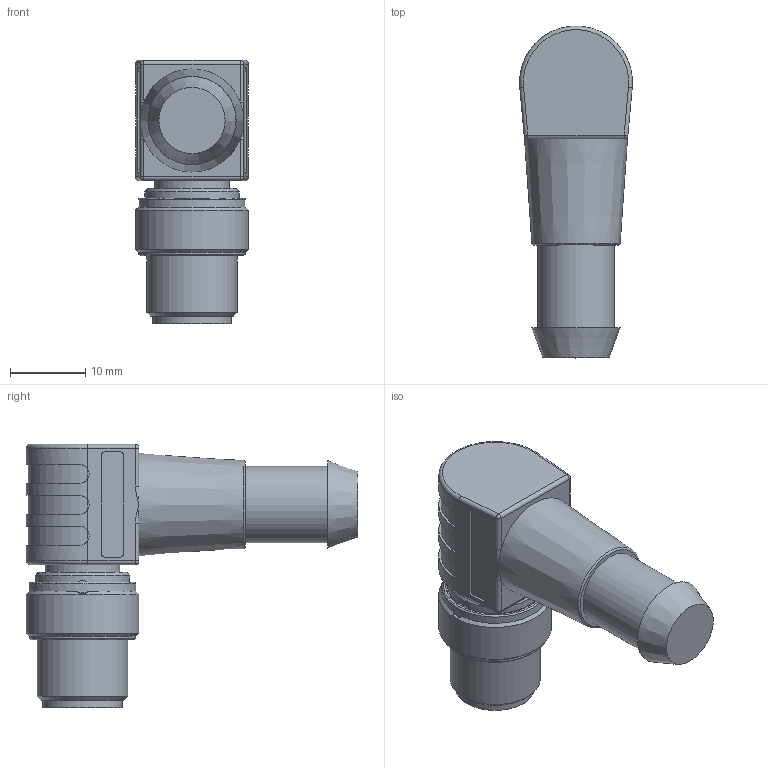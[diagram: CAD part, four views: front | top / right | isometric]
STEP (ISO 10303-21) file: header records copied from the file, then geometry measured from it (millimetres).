
FILE_DESCRIPTION((''),'2;1');
FILE_NAME('C:\TurckZip\MFGD0008.stp','2011-06-16T07:59:34',('IKOROL'),(''),'Autodesk Inventor 2010','Autodesk Inventor 2010','');
FILE_SCHEMA(('CONFIG_CONTROL_DESIGN'));
Length unit declared in the file: millimetre
Products named in the file (1): Part1
Bounding box: 15 x 44.1 x 35 mm (x, y, z)
Volume: 8032.9 mm3; surface area: 4612.7 mm2
Topology: 1 solids, 1 shells, 130 faces, 330 edges, 203 vertices
Faces by surface type: cylinder 51, plane 41, bspline 19, cone 8, torus 7, sphere 4
Full cylindrical faces by diameter (mm): 8.3 x1, 9.9 x1, 10 x1, 10.2 x1, 10.5 x1, 10.7 x1, 12 x1, 12.5 x1, 14.2 x2, 15 x1
Entity records: 4307 total; most frequent: CARTESIAN_POINT 1309, DIRECTION 603, ORIENTED_EDGE 584, EDGE_CURVE 292, AXIS2_PLACEMENT_3D 249, VERTEX_POINT 196, EDGE_LOOP 166, FACE_OUTER_BOUND 130
